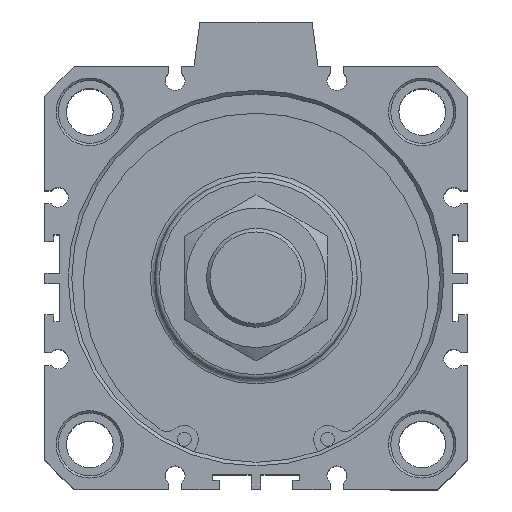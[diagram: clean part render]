
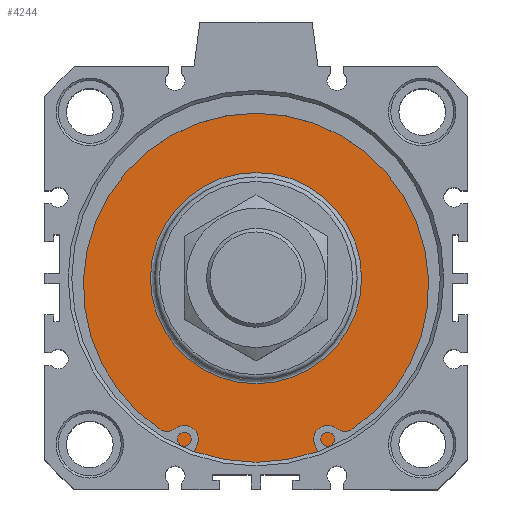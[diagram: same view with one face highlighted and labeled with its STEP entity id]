
A CAD part, top view. The second image highlights one B-rep face of the part: STEP entity #4244.
In plain terms, the highlighted planar face has unit normal (0, 0, 1).
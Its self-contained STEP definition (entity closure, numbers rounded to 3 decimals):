
#4193=CARTESIAN_POINT('',(2.632,21.227,85.6));
#4194=VERTEX_POINT('',#4193);
#4195=CARTESIAN_POINT('',(2.632,-2.273,85.6));
#4196=DIRECTION('',(0.0,0.0,1.0));
#4197=DIRECTION('',(0.0,-1.0,0.0));
#4198=AXIS2_PLACEMENT_3D('',#4195,#4196,#4197);
#4199=CIRCLE('',#4198,23.5);
#4200=EDGE_CURVE('',#4194,#4194,#4199,.T.);
#4225=CARTESIAN_POINT('',(2.632,29.477,85.6));
#4226=DIRECTION('',(0.0,0.0,1.0));
#4227=DIRECTION('',(1.0,0.0,0.0));
#4228=AXIS2_PLACEMENT_3D('',#4225,#4226,#4227);
#4229=PLANE('',#4228);
#4230=CARTESIAN_POINT('',(2.632,38.727,85.6));
#4231=VERTEX_POINT('',#4230);
#4232=CARTESIAN_POINT('',(2.632,-2.273,85.6));
#4233=DIRECTION('',(0.0,0.0,-1.0));
#4234=DIRECTION('',(0.0,1.0,0.0));
#4235=AXIS2_PLACEMENT_3D('',#4232,#4233,#4234);
#4236=CIRCLE('',#4235,41.);
#4237=EDGE_CURVE('',#4231,#4231,#4236,.T.);
#4238=ORIENTED_EDGE('',*,*,#4237,.F.);
#4239=EDGE_LOOP('',(#4238));
#4240=FACE_OUTER_BOUND('',#4239,.T.);
#4241=ORIENTED_EDGE('',*,*,#4200,.F.);
#4242=EDGE_LOOP('',(#4241));
#4243=FACE_BOUND('',#4242,.T.);
#4244=ADVANCED_FACE('',(#4240,#4243),#4229,.T.);
